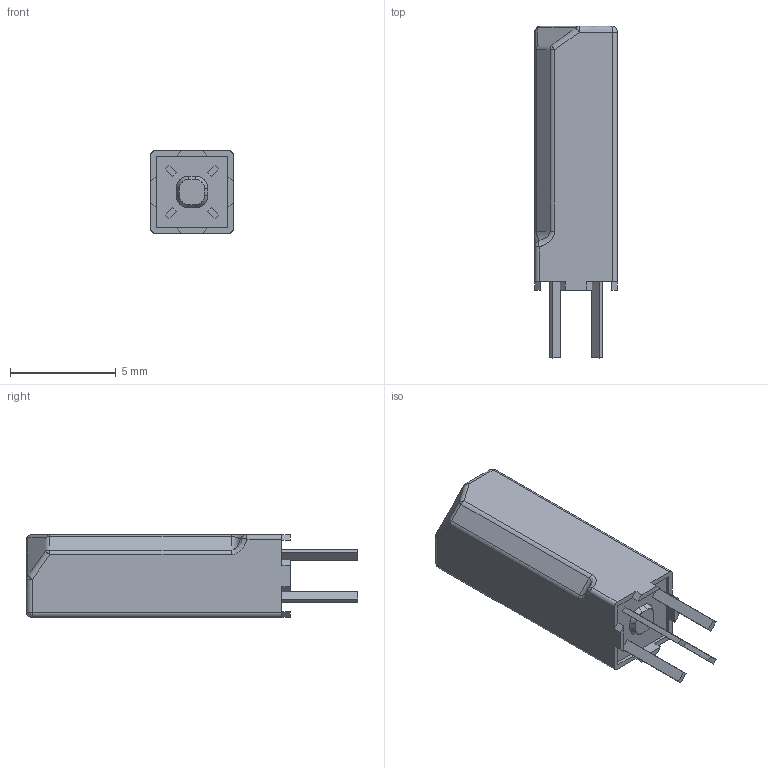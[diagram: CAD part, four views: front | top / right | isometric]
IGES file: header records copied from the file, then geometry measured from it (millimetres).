
Start section: SolidWorks IGES file using analytic representation for surfaces
Global section: file name: T:\Robert King\MARKETING\Renders\Relay Renders for new website\Relay models\122-1-A\122-1-A .IGS; native system: SolidWorks 2017; preprocessor: SolidWorks 2017; author: solidworks; date: 190426.112940; units: millimetre
Bounding box: 3.9 x 15.7 x 3.9 mm (x, y, z)
Surface area: 238.3 mm2 (no closed solid volume)
Topology: 0 solids, 0 shells, 367 faces, 3357 edges, 3351 vertices
Faces by surface type: bspline 344, revolution 23
